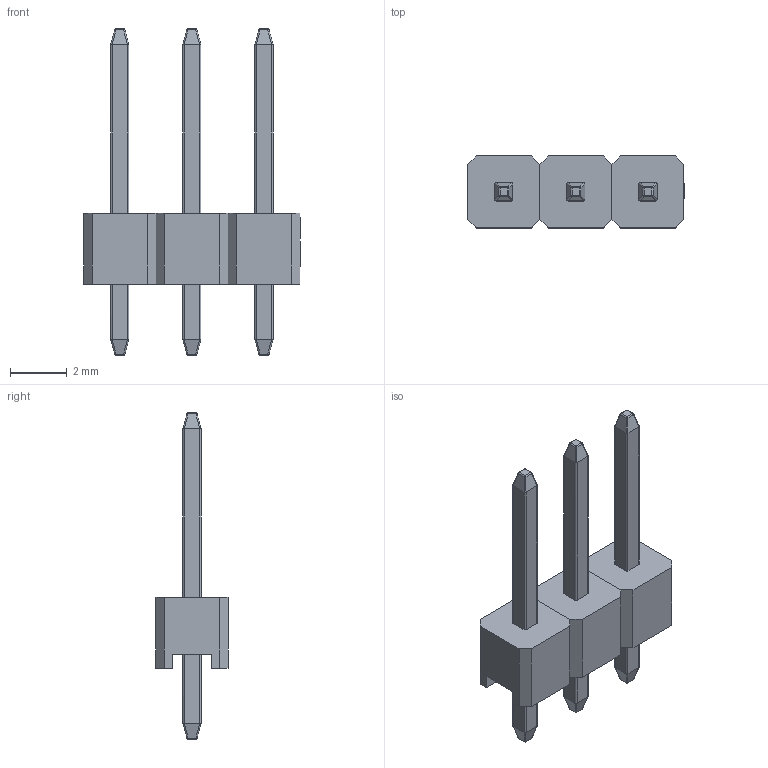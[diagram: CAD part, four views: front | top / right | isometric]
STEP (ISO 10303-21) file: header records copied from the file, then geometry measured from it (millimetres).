
FILE_DESCRIPTION (( 'STEP AP214' ), '1' );
FILE_NAME ('HDR-TH_3P-P2.54-V-M-A.step', '2022-07-02T12:21:35', ( '' ), ( '' ), 'SwSTEP 2.0', 'SolidWorks 2020', '' );
FILE_SCHEMA (( 'AUTOMOTIVE_DESIGN' ));
Length unit declared in the file: millimetre
Products named in the file (1): HDR-TH_3P-P2.54-V-M-A
Bounding box: 7.63 x 2.54 x 11.5 mm (x, y, z)
Volume: 53 mm3; surface area: 179.2 mm2
Topology: 3 solids, 3 shells, 475 faces, 1239 edges, 802 vertices
Faces by surface type: plane 267, bspline 112, cylinder 72, sphere 24
Entity records: 20842 total; most frequent: CARTESIAN_POINT 4837, ORIENTED_EDGE 2478, DIRECTION 1763, EDGE_CURVE 1239, LINE 843, VECTOR 843, VERTEX_POINT 802, EDGE_LOOP 507
